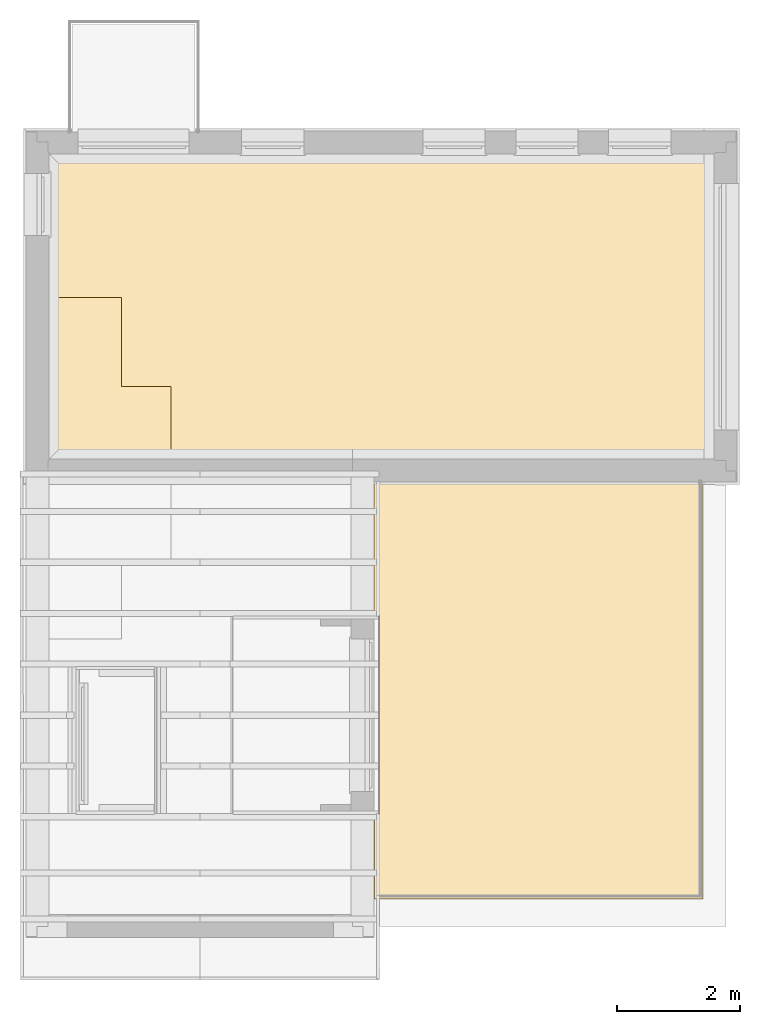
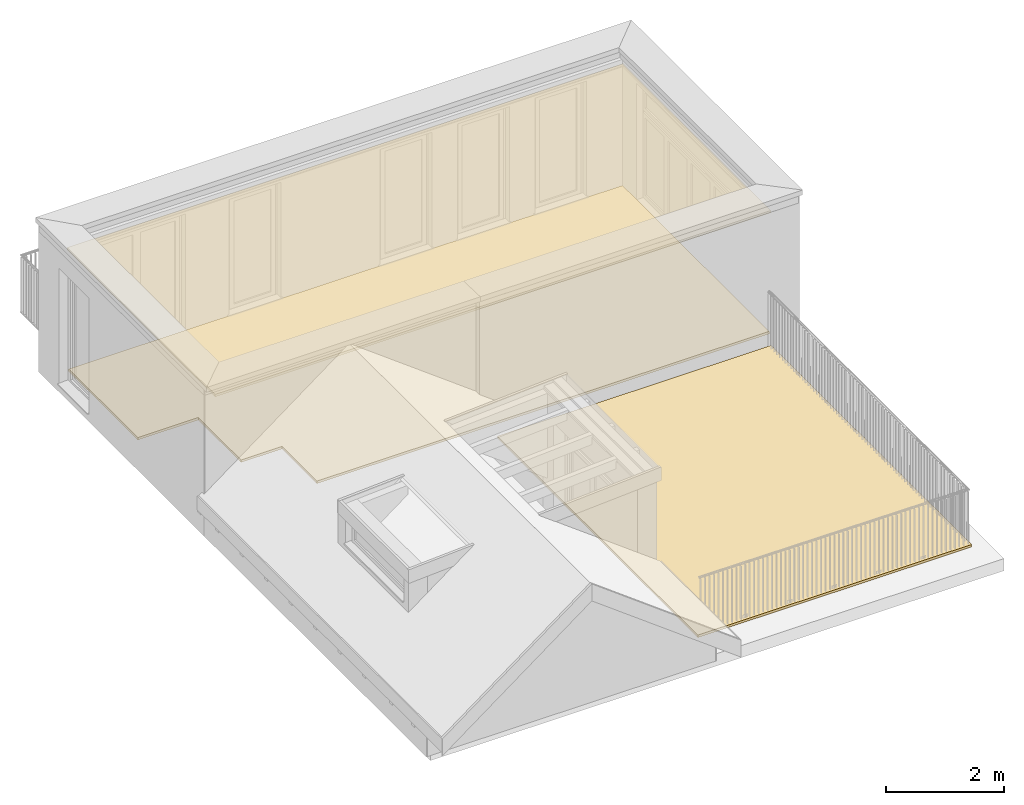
# One storey, part 11 of 15: 3 coverings.
"""IFC4 building model written with IfcOpenShell, lengths in metres."""

from ifc_helpers import new_model, entity, si_unit, converted_unit, derived_unit, direction, frame, origin_with_axes, place, context, subcontext, project, spatial, triangles, material, type_object, element, save


model = new_model("IFC4")

# Units and contexts
model_context = context("Model", 3, precision=1e-05, world=origin_with_axes(), true_north=direction((-0.526213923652, 0.850352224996)))
body_context = subcontext(model_context, "Body", "Model", "MODEL_VIEW")
ifc_project = project(units=[si_unit("LENGTHUNIT", "METRE"), si_unit("AREAUNIT", "SQUARE_METRE"), si_unit("VOLUMEUNIT", "CUBIC_METRE"), converted_unit("PLANEANGLEUNIT", "DEGREE", entity("IfcPlaneAngleMeasure", 0.0174532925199), si_unit("PLANEANGLEUNIT", "RADIAN"), dimensions=[0, 0, 0, 0, 0, 0, 0]), si_unit("SOLIDANGLEUNIT", "STERADIAN"), converted_unit("TIMEUNIT", "Year", entity("IfcTimeMeasure", 31556926.0), si_unit("TIMEUNIT", "SECOND"), dimensions=[0, 0, 1, 0, 0, 0, 0]), si_unit("MASSUNIT", "GRAM", prefix="KILO"), si_unit("THERMODYNAMICTEMPERATUREUNIT", "DEGREE_CELSIUS"), si_unit("LUMINOUSINTENSITYUNIT", "LUMEN"), si_unit("ENERGYUNIT", "JOULE", prefix="MEGA"), derived_unit("THERMALCONDUCTANCEUNIT", [(si_unit("POWERUNIT", "WATT"), 1), (si_unit("LENGTHUNIT", "METRE"), -1), (si_unit("THERMODYNAMICTEMPERATUREUNIT", "KELVIN"), -1)]), derived_unit("SPECIFICHEATCAPACITYUNIT", [(si_unit("ENERGYUNIT", "JOULE"), 1), (si_unit("MASSUNIT", "GRAM", prefix="KILO"), -1), (si_unit("THERMODYNAMICTEMPERATUREUNIT", "KELVIN"), -1)]), derived_unit("MASSDENSITYUNIT", [(si_unit("MASSUNIT", "GRAM", prefix="KILO"), 1), (si_unit("VOLUMEUNIT", "CUBIC_METRE"), -1)])], contexts=[model_context])

# Site, building, storey, space
site_placement = place(None, origin_with_axes())
site = spatial("IfcSite", under=ifc_project, at=site_placement, Name="Gelände", CompositionType="ELEMENT")
building_placement = place(site_placement, origin_with_axes())
building = spatial("IfcBuilding", under=site, at=building_placement, Name="Haus vom Nikolaus", CompositionType="ELEMENT")
storey_placement = place(building_placement, frame((0.0, 0.0, 3.75), z_axis=(0.0, 0.0, 1.0), x_axis=(1.0, 0.0, 0.0)))
storey = spatial("IfcBuildingStorey", under=building, at=storey_placement, Name="1. OG", CompositionType="ELEMENT", Elevation=3.75)
space_placement = place(storey_placement, frame((-0.115002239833, 5.36483188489, 0.0), z_axis=(0.0, 0.0, 1.0), x_axis=(-1.0, 0.0, 0.0)))
space = spatial("IfcSpace", under=storey, at=space_placement, Name="OG", CompositionType="ELEMENT")

# Coverings
ifc_material_1 = material(Name="Verputz, Kalkzement")
covering_type_1 = type_object("IfcCoveringType", Name="Verputz, Kalkzement 50", PredefinedType="NOTDEFINED")
covering_1_placement = place(space_placement, frame((-0.3549998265, -2.27500018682, 2.59999998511), z_axis=(0.0, 0.0, 1.0), x_axis=(-1.0, 0.0, 0.0)))
element("IfcCovering", 1, at=covering_1_placement, inside=space, type_object=covering_type_1, material=ifc_material_1, Name="Decke-014", PredefinedType="CEILING", context=body_context, shape_type="Tessellation", body=[
    triangles([(0.0, 0.0, 0.0), (10.8450000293, 0.0, 0.05), (0.0, 0.0, 0.05), (10.8450000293, 0.0, 0.0), (10.8450000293, 5.00000006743, 0.05), (0.0, 5.00000006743, 0.05), (0.0, 5.00000006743, 0.0), (10.8450000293, 5.00000006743, 0.0)], [[1, 2, 3], [1, 4, 2], [3, 5, 6], [3, 2, 5], [7, 3, 6], [7, 1, 3], [1, 8, 4], [1, 7, 8], [4, 5, 2], [4, 8, 5], [8, 6, 5], [8, 7, 6]], closed=True),
])
ifc_material_2 = material(Name="Holz, Brettschichtholz")
covering_type_2 = type_object("IfcCoveringType", Name="Holz, Brettschichtholz 50", PredefinedType="FLOORING")
covering_2_placement = place(storey_placement, frame((5.54538204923, 7.28483199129, 0.150099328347), z_axis=(0.0, 0.0, 1.0), x_axis=(1.0, 0.0, 0.0)))
element("IfcCovering", 2, at=covering_2_placement, inside=storey, type_object=covering_type_2, material=ifc_material_2, Name="Decke-008", PredefinedType="FLOORING", context=body_context, shape_type="Tessellation", body=[
    triangles([(0.000320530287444, -6.77294803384, -0.05), (0.0, 0.0, 0.0), (0.0, 0.0, -0.05), (0.000320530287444, -6.77294803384, 0.0), (5.34294810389, -5.63741764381e-09, 0.0), (5.34294810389, -5.63741764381e-09, -0.05), (5.34294810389, -6.77294803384, -0.05), (5.34294810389, -6.77294803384, 0.0)], [[1, 2, 3], [1, 4, 2], [3, 5, 6], [3, 2, 5], [6, 1, 3], [6, 7, 1], [7, 4, 1], [7, 8, 4], [4, 5, 2], [4, 8, 5], [6, 8, 7], [6, 5, 8]], closed=True),
])
ifc_material_3 = material(Name="Belag, Parkett")
covering_type_3 = type_object("IfcCoveringType", Name="Belag, Parkett 50", PredefinedType="NOTDEFINED")
covering_3_placement = place(space_placement, frame((-0.35620662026, -4.92000012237, 0.15), z_axis=(0.0, 0.0, 1.0), x_axis=(-1.0, 0.0, 0.0)))
element("IfcCovering", 3, at=covering_3_placement, inside=space, type_object=covering_type_3, material=ifc_material_3, Name="Decke-014", PredefinedType="FLOORING", context=body_context, shape_type="Tessellation", body=[
    triangles([(10.8237932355, 2.33500072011, 0.0), (1.99917761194, -1.44499991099, 0.0), (10.8237932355, -2.6250000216, 0.0), (1.99917766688, -2.62499961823, 0.0), (1.19917757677, 7.55505062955e-08, 0.0), (0.0187932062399, 2.33500072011, 0.0), (1.19917766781, -1.44499992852, 0.0), (0.0187932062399, 1.18400755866e-09, 0.0), (1.99917761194, -1.44499991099, -0.05), (1.99917766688, -2.62499961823, -0.05), (10.8237932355, -2.6250000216, -0.05), (10.8237932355, 2.33500072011, -0.05), (0.0187932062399, 2.33500072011, -0.05), (0.0187932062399, 1.18400755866e-09, -0.05), (1.19917757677, 7.55505062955e-08, -0.05), (1.19917766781, -1.44499992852, -0.05)], [[1, 2, 3], [3, 2, 4], [5, 1, 6], [5, 7, 2], [1, 5, 2], [8, 5, 6], [4, 9, 10], [4, 2, 9], [4, 11, 3], [4, 10, 11], [11, 1, 3], [11, 12, 1], [1, 13, 6], [1, 12, 13], [13, 8, 6], [13, 14, 8], [14, 5, 8], [14, 15, 5], [15, 7, 5], [15, 16, 7], [16, 2, 7], [16, 9, 2], [12, 9, 15], [9, 11, 10], [15, 9, 16], [12, 15, 13], [13, 15, 14], [9, 12, 11]], closed=True),
])

save(model, "model.ifc")
